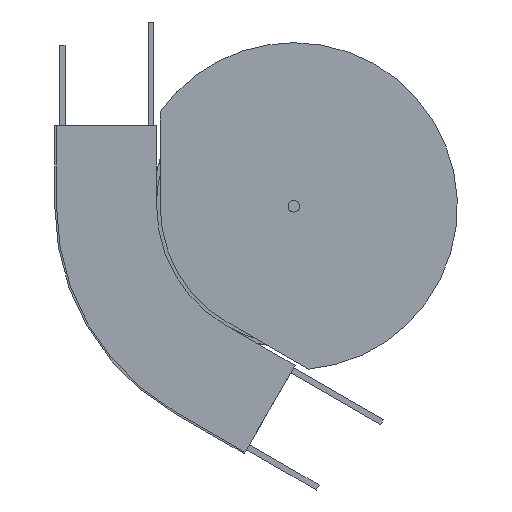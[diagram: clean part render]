
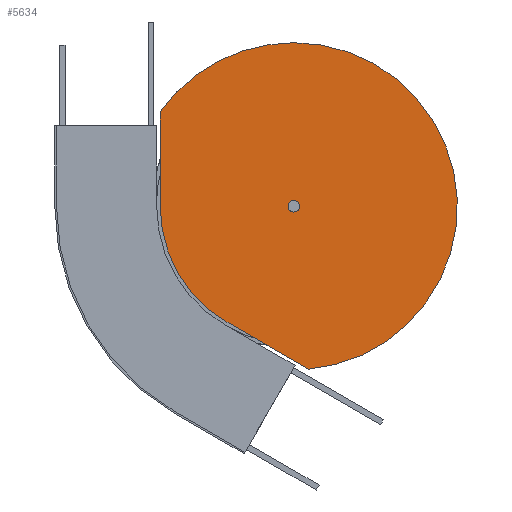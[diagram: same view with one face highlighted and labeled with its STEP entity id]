
A CAD part, front view. The second image highlights one B-rep face of the part: STEP entity #5634.
In plain terms, the highlighted planar face has unit normal (0, -1, 0).
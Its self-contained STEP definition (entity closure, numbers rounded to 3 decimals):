
#348 = CARTESIAN_POINT ( 'NONE',  ( 162.5, -38.75, 72. ) ) ;
#351 = CARTESIAN_POINT ( 'NONE',  ( 46.5, -38.75, 11.902 ) ) ;
#359 = CARTESIAN_POINT ( 'NONE',  ( 162.5, -38.75, -75. ) ) ;
#360 = CARTESIAN_POINT ( 'NONE',  ( 162.5, -38.75, -65. ) ) ;
#370 = CARTESIAN_POINT ( 'NONE',  ( 46.5, -38.75, -70. ) ) ;
#376 = CARTESIAN_POINT ( 'NONE',  ( 104.5, -38.75, -170.459 ) ) ;
#633 = CARTESIAN_POINT ( 'NONE',  ( 175.43, -38.75, -211.41 ) ) ;
#693 = CARTESIAN_POINT ( 'NONE',  ( 162.5, -38.75, -70. ) ) ;
#694 = DIRECTION ( 'NONE',  ( 0., -1., 0. ) ) ;
#695 = DIRECTION ( 'NONE',  ( 0., 0., -1. ) ) ;
#696 = DIRECTION ( 'NONE',  ( -0.866, 0., 0.5 ) ) ;
#698 = CARTESIAN_POINT ( 'NONE',  ( 104.5, -38.75, -170.459 ) ) ;
#699 = CARTESIAN_POINT ( 'NONE',  ( 162.5, -38.75, -70. ) ) ;
#700 = DIRECTION ( 'NONE',  ( 0., -1., 0. ) ) ;
#701 = DIRECTION ( 'NONE',  ( 0., 0., 1. ) ) ;
#702 = DIRECTION ( 'NONE',  ( 0., 0., 1. ) ) ;
#705 = CARTESIAN_POINT ( 'NONE',  ( 46.5, -38.75, -70. ) ) ;
#706 = CARTESIAN_POINT ( 'NONE',  ( 162.5, -38.75, -70. ) ) ;
#707 = DIRECTION ( 'NONE',  ( 0., 1., 0. ) ) ;
#708 = DIRECTION ( 'NONE',  ( 0., 0., 1. ) ) ;
#769 = CARTESIAN_POINT ( 'NONE',  ( 162.5, -38.75, -70. ) ) ;
#770 = DIRECTION ( 'NONE',  ( 0., 1., 0. ) ) ;
#771 = DIRECTION ( 'NONE',  ( 0., 0., 1. ) ) ;
#785 = CARTESIAN_POINT ( 'NONE',  ( 162.5, -38.75, -70. ) ) ;
#786 = DIRECTION ( 'NONE',  ( 0., -1., 0. ) ) ;
#787 = DIRECTION ( 'NONE',  ( 0., 0., 1. ) ) ;
#1386 = AXIS2_PLACEMENT_3D ( 'NONE', #693, #694, #695 ) ;
#1387 = AXIS2_PLACEMENT_3D ( 'NONE', #699, #700, #701 ) ;
#1388 = AXIS2_PLACEMENT_3D ( 'NONE', #706, #707, #708 ) ;
#1392 = AXIS2_PLACEMENT_3D ( 'NONE', #769, #770, #771 ) ;
#1395 = AXIS2_PLACEMENT_3D ( 'NONE', #785, #786, #787 ) ;
#1564 = AXIS2_PLACEMENT_3D ( 'NONE', #2292, #2289, #2296 ) ;
#2289 = DIRECTION ( 'NONE',  ( 0., 1., 0. ) ) ;
#2292 = CARTESIAN_POINT ( 'NONE',  ( 46.5, -38.75, -70. ) ) ;
#2294 = PLANE ( 'NONE',  #1564 ) ;
#2296 = DIRECTION ( 'NONE',  ( 0., 0., -1. ) ) ;
#2951 = ORIENTED_EDGE ( 'NONE', *, *, #5140, .T. ) ;
#3188 = CIRCLE ( 'NONE', #1395, 5. ) ;
#3197 = CIRCLE ( 'NONE', #1392, 142. ) ;
#3249 = VECTOR ( 'NONE', #702, 1000. ) ;
#3252 = VECTOR ( 'NONE', #696, 1000. ) ;
#3253 = LINE ( 'NONE', #705, #3249 ) ;
#3254 = CIRCLE ( 'NONE', #1388, 142. ) ;
#3256 = CIRCLE ( 'NONE', #1387, 5. ) ;
#3258 = LINE ( 'NONE', #698, #3252 ) ;
#3263 = CIRCLE ( 'NONE', #1386, 116. ) ;
#3716 = ORIENTED_EDGE ( 'NONE', *, *, #5144, .F. ) ;
#3717 = ORIENTED_EDGE ( 'NONE', *, *, #5145, .F. ) ;
#3718 = ORIENTED_EDGE ( 'NONE', *, *, #5175, .F. ) ;
#3719 = ORIENTED_EDGE ( 'NONE', *, *, #5146, .F. ) ;
#3839 = FACE_OUTER_BOUND ( 'NONE', #4714, .T. ) ;
#3843 = FACE_BOUND ( 'NONE', #4710, .T. ) ;
#4710 = EDGE_LOOP ( 'NONE', ( #4719, #5079 ) ) ;
#4714 = EDGE_LOOP ( 'NONE', ( #2951, #3716, #3717, #3718, #3719 ) ) ;
#4719 = ORIENTED_EDGE ( 'NONE', *, *, #5143, .F. ) ;
#4745 = VERTEX_POINT ( 'NONE', #351 ) ;
#4748 = VERTEX_POINT ( 'NONE', #348 ) ;
#4756 = VERTEX_POINT ( 'NONE', #359 ) ;
#4757 = VERTEX_POINT ( 'NONE', #360 ) ;
#4768 = VERTEX_POINT ( 'NONE', #370 ) ;
#4775 = VERTEX_POINT ( 'NONE', #376 ) ;
#5037 = VERTEX_POINT ( 'NONE', #633 ) ;
#5079 = ORIENTED_EDGE ( 'NONE', *, *, #5181, .F. ) ;
#5140 = EDGE_CURVE ( 'NONE', #4768, #4775, #3263, .T. ) ;
#5143 = EDGE_CURVE ( 'NONE', #4757, #4756, #3256, .T. ) ;
#5144 = EDGE_CURVE ( 'NONE', #5037, #4775, #3258, .T. ) ;
#5145 = EDGE_CURVE ( 'NONE', #4748, #5037, #3254, .T. ) ;
#5146 = EDGE_CURVE ( 'NONE', #4768, #4745, #3253, .T. ) ;
#5175 = EDGE_CURVE ( 'NONE', #4745, #4748, #3197, .T. ) ;
#5181 = EDGE_CURVE ( 'NONE', #4756, #4757, #3188, .T. ) ;
#5634 = ADVANCED_FACE ( 'NONE', ( #3843, #3839 ), #2294, .F. ) ;
